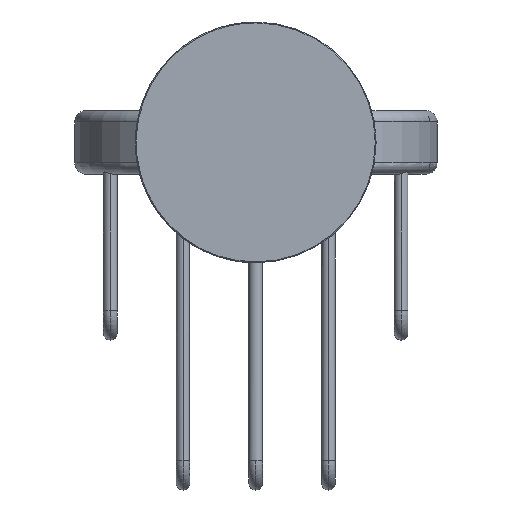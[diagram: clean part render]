
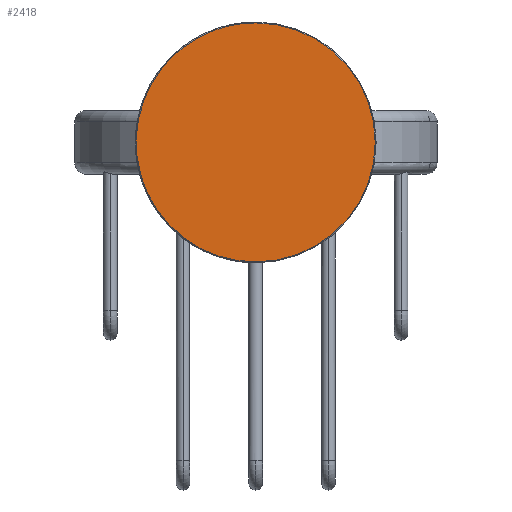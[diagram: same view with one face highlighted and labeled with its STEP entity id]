
A CAD part, front view. The second image highlights one B-rep face of the part: STEP entity #2418.
In plain terms, the highlighted planar face has unit normal (0, -1, 0).
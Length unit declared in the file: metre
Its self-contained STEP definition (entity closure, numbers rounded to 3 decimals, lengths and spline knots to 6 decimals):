
#62=EDGE_CURVE('',#63,#65,#67,.F.);
#63=VERTEX_POINT('',#64);
#64=CARTESIAN_POINT('',(0.0,0.0,-0.0263));
#65=VERTEX_POINT('',#66);
#66=CARTESIAN_POINT('',(0.0,0.0,0.0263));
#67=CIRCLE('',#68,0.0263);
#68=AXIS2_PLACEMENT_3D('',#69,#70,#71);
#69=CARTESIAN_POINT('',(0.0,0.0,0.0));
#70=DIRECTION('',(0.0,1.0,0.0));
#71=DIRECTION('',(0.0,0.0,1.0));
#2418=ADVANCED_FACE('',(#2424),#2419,.F.);
#2419=PLANE('',#2420);
#2420=AXIS2_PLACEMENT_3D('',#2421,#2422,#2423);
#2421=CARTESIAN_POINT('',(0.0,0.0,0.0265));
#2422=DIRECTION('',(0.0,1.0,0.0));
#2423=DIRECTION('',(0.0,0.0,1.0));
#2424=FACE_OUTER_BOUND('',#2425,.T.);
#2425=EDGE_LOOP('',(#2426,#2434));
#2426=ORIENTED_EDGE('',*,*,#2428,.T.);
#2427=CARTESIAN_POINT('',(0.0,0.0,-0.0263));
#2428=EDGE_CURVE('',#65,#63,#2429,.F.);
#2429=(B_SPLINE_CURVE(3,(#2427,#2430,#2431,#2432),.UNSPECIFIED.,.F.,.U.)B_SPLINE_CURVE_WITH_KNOTS(
  (4,4),(0.0,1.0),.UNSPECIFIED.)BOUNDED_CURVE()CURVE()GEOMETRIC_REPRESENTATION_ITEM(
  )RATIONAL_B_SPLINE_CURVE((1.0,0.333,0.333,1.0)
  )REPRESENTATION_ITEM(''));
#2430=CARTESIAN_POINT('',(-0.0526,0.0,-0.0263));
#2431=CARTESIAN_POINT('',(-0.0526,0.0,0.0263));
#2432=CARTESIAN_POINT('',(0.0,0.0,0.0263));
#2434=ORIENTED_EDGE('',*,*,#62,.T.);
